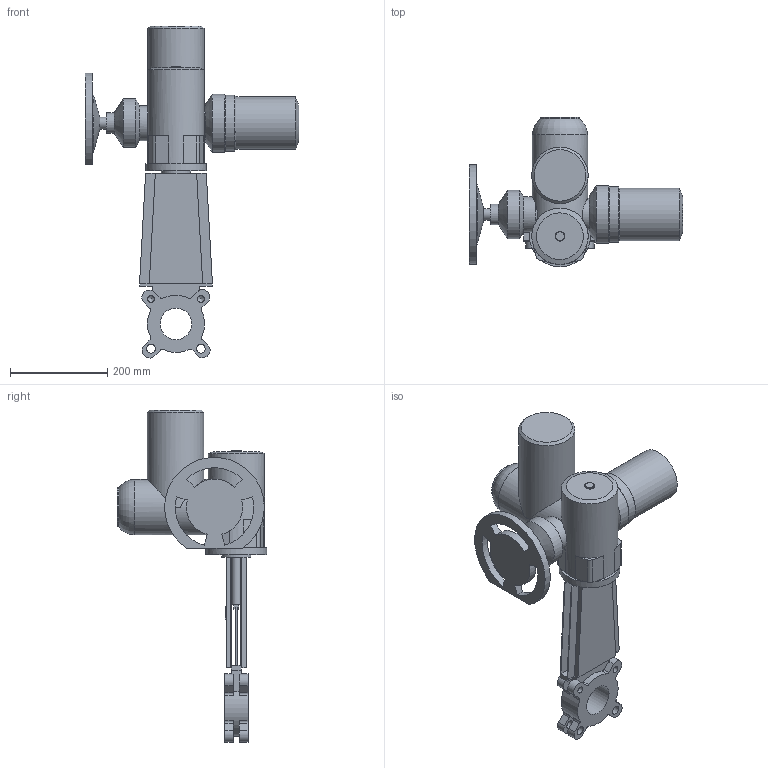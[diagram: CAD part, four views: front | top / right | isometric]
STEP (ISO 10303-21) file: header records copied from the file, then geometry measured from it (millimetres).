
FILE_DESCRIPTION(('STEP AP203'), '1');
FILE_NAME('K21GVA_DN65+MT903.A 07', '', ('UNSPECIFIED'), ('UNSPECIFIED'), 'ASCON STEP Converter 1.6', 'ASCON Math Kernel', '');
FILE_SCHEMA(('CONFIG_CONTROL_DESIGN'));
Length unit declared in the file: millimetre
Bounding box: 440 x 307.5 x 683.23 mm (x, y, z)
Volume: 9295603.4 mm3; surface area: 655429.2 mm2
Topology: 1 solids, 1 shells, 244 faces, 656 edges, 421 vertices
Faces by surface type: plane 147, cylinder 82, cone 14, torus 1
Full cylindrical faces by diameter (mm): 8.5 x4, 12 x4, 13.835 x4, 18 x4, 20 x2, 24 x1, 42 x1, 60 x1, 65 x1, 66 x1, 72 x1, 80 x1, 100 x1, 108 x1, 114 x1, 115 x1, 116 x2, 119 x1, 125 x1
Entity records: 10450 total; most frequent: CARTESIAN_POINT 2402, DIRECTION 1276, ORIENTED_EDGE 1206, EDGE_CURVE 603, AXIS2_PLACEMENT_3D 455, VERTEX_POINT 417, LINE 366, VECTOR 366
